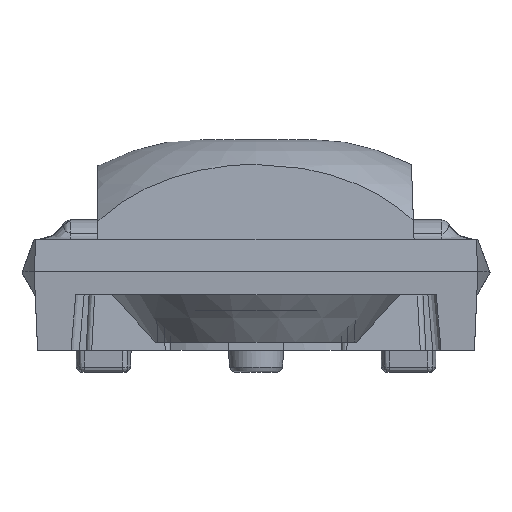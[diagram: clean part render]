
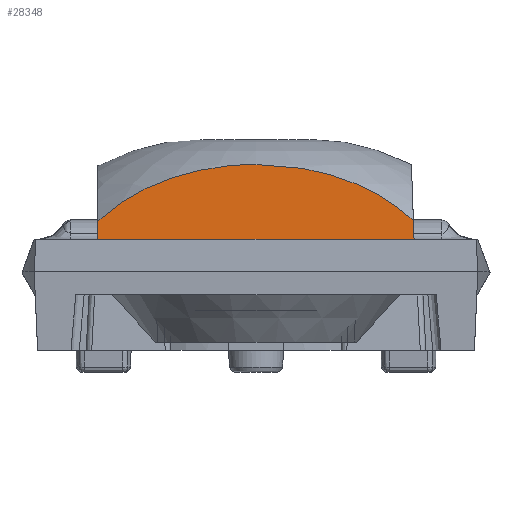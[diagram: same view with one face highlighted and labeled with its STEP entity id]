
A CAD part, left-side view. The second image highlights one B-rep face of the part: STEP entity #28348.
In plain terms, the highlighted planar face has unit normal (-0.999, 0, 0.035).
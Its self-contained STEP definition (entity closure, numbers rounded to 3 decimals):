
#4228=LINE('',#42603,#5344);
#4232=LINE('',#42611,#5348);
#4234=LINE('',#42615,#5350);
#5344=VECTOR('',#33796,1000.);
#5348=VECTOR('',#33804,1000.);
#5350=VECTOR('',#33808,1000.);
#8582=ORIENTED_EDGE('',*,*,#13259,.T.);
#8583=ORIENTED_EDGE('',*,*,#12366,.F.);
#8584=ORIENTED_EDGE('',*,*,#12361,.F.);
#8585=ORIENTED_EDGE('',*,*,#12359,.F.);
#8586=ORIENTED_EDGE('',*,*,#13263,.F.);
#8587=ORIENTED_EDGE('',*,*,#13265,.F.);
#12359=EDGE_CURVE('',#15039,#15040,#16556,.T.);
#12361=EDGE_CURVE('',#15040,#15041,#16557,.T.);
#12366=EDGE_CURVE('',#15041,#15043,#16561,.T.);
#13259=EDGE_CURVE('',#15620,#15043,#4228,.F.);
#13263=EDGE_CURVE('',#15622,#15039,#4232,.T.);
#13265=EDGE_CURVE('',#15620,#15622,#4234,.F.);
#15039=VERTEX_POINT('',#39134);
#15040=VERTEX_POINT('',#39139);
#15041=VERTEX_POINT('',#39149);
#15043=VERTEX_POINT('',#39178);
#15620=VERTEX_POINT('',#42604);
#15622=VERTEX_POINT('',#42612);
#16556=B_SPLINE_CURVE_WITH_KNOTS('',3,(#39135,#39136,#39137,#39138),
 .UNSPECIFIED.,.F.,.F.,(4,4),(0.,0.),
 .UNSPECIFIED.);
#16557=B_SPLINE_CURVE_WITH_KNOTS('',3,(#39142,#39143,#39144,#39145,#39146,
#39147,#39148),.UNSPECIFIED.,.F.,.F.,(4,1,1,1,4),(0.,0.003,
0.006,0.009,0.012),
 .UNSPECIFIED.);
#16561=B_SPLINE_CURVE_WITH_KNOTS('',3,(#39174,#39175,#39176,#39177),
 .UNSPECIFIED.,.F.,.F.,(4,4),(0.,0.),.UNSPECIFIED.);
#17700=EDGE_LOOP('',(#8582,#8583,#8584,#8585,#8586,#8587));
#18992=FACE_BOUND('',#17700,.T.);
#19874=PLANE('',#30051);
#28348=ADVANCED_FACE('',(#18992),#19874,.T.);
#30051=AXIS2_PLACEMENT_3D('',#42614,#33806,#33807);
#33796=DIRECTION('',(-0.035,-0.035,-0.999));
#33804=DIRECTION('',(0.035,0.,0.999));
#33806=DIRECTION('',(-0.999,0.,0.035));
#33807=DIRECTION('',(0.035,0.,0.999));
#33808=DIRECTION('',(0.,-1.,0.));
#39134=CARTESIAN_POINT('',(-135.677,5.7,4.662));
#39135=CARTESIAN_POINT('',(-135.677,5.7,4.662));
#39136=CARTESIAN_POINT('',(-135.676,5.688,4.673));
#39137=CARTESIAN_POINT('',(-135.676,5.676,4.684));
#39138=CARTESIAN_POINT('',(-135.676,5.664,4.695));
#39139=CARTESIAN_POINT('',(-135.676,5.664,4.695));
#39142=CARTESIAN_POINT('',(-135.676,5.664,4.695));
#39143=CARTESIAN_POINT('',(-135.651,4.899,5.393));
#39144=CARTESIAN_POINT('',(-135.616,3.08,6.402));
#39145=CARTESIAN_POINT('',(-135.601,0.004,6.844));
#39146=CARTESIAN_POINT('',(-135.616,-3.073,6.405));
#39147=CARTESIAN_POINT('',(-135.651,-4.9,5.393));
#39148=CARTESIAN_POINT('',(-135.676,-5.664,4.695));
#39149=CARTESIAN_POINT('',(-135.676,-5.664,4.695));
#39174=CARTESIAN_POINT('',(-135.676,-5.664,4.695));
#39175=CARTESIAN_POINT('',(-135.676,-5.668,4.692));
#39176=CARTESIAN_POINT('',(-135.676,-5.672,4.688));
#39177=CARTESIAN_POINT('',(-135.676,-5.676,4.684));
#39178=CARTESIAN_POINT('',(-135.676,-5.676,4.684));
#42603=CARTESIAN_POINT('',(-135.535,-5.535,8.727));
#42604=CARTESIAN_POINT('',(-135.7,-5.7,4.));
#42611=CARTESIAN_POINT('',(-135.471,5.7,10.567));
#42612=CARTESIAN_POINT('',(-135.7,5.7,4.));
#42614=CARTESIAN_POINT('',(-135.7,0.,4.));
#42615=CARTESIAN_POINT('',(-135.7,0.,4.));
